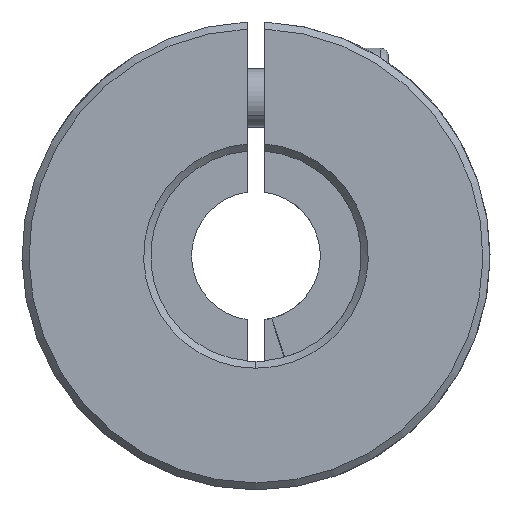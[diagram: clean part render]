
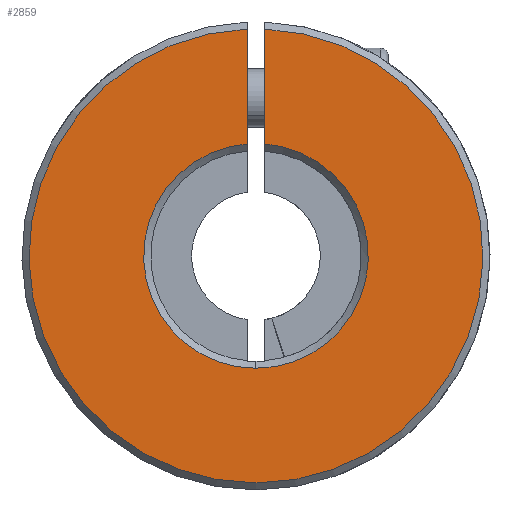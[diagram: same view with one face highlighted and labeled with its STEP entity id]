
A CAD part, front view. The second image highlights one B-rep face of the part: STEP entity #2859.
In plain terms, the highlighted planar face has unit normal (0, -1, 0).
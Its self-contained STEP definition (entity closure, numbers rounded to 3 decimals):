
#314 = AXIS2_PLACEMENT_3D ( 'NONE', #4131, #5082, #2740 ) ;
#428 = EDGE_CURVE ( 'NONE', #3348, #569, #4663, .T. ) ;
#520 = LINE ( 'NONE', #5727, #3197 ) ;
#569 = VERTEX_POINT ( 'NONE', #1157 ) ;
#590 = CIRCLE ( 'NONE', #314, 9.6 ) ;
#794 = AXIS2_PLACEMENT_3D ( 'NONE', #1958, #4303, #3773 ) ;
#1157 = CARTESIAN_POINT ( 'NONE',  ( 0.75, -25., 19.385 ) ) ;
#1315 = CARTESIAN_POINT ( 'NONE',  ( 0., -25., 0. ) ) ;
#1346 = LINE ( 'NONE', #2864, #2726 ) ;
#1531 = CARTESIAN_POINT ( 'NONE',  ( -0.75, -25., 9.571 ) ) ;
#1826 = DIRECTION ( 'NONE',  ( 0., -1., 0. ) ) ;
#1958 = CARTESIAN_POINT ( 'NONE',  ( 0., -25., 0. ) ) ;
#2127 = ORIENTED_EDGE ( 'NONE', *, *, #2978, .T. ) ;
#2726 = VECTOR ( 'NONE', #3788, 1000. ) ;
#2740 = DIRECTION ( 'NONE',  ( 0., 0., 1. ) ) ;
#2765 = CARTESIAN_POINT ( 'NONE',  ( 0., -25., 0. ) ) ;
#2859 = ADVANCED_FACE ( 'NONE', ( #3647 ), #5496, .F. ) ;
#2864 = CARTESIAN_POINT ( 'NONE',  ( -0.75, -25., -9. ) ) ;
#2978 = EDGE_CURVE ( 'NONE', #569, #3592, #520, .T. ) ;
#3009 = CARTESIAN_POINT ( 'NONE',  ( 0.75, -25., 9.571 ) ) ;
#3070 = ORIENTED_EDGE ( 'NONE', *, *, #5058, .T. ) ;
#3197 = VECTOR ( 'NONE', #3387, 1000. ) ;
#3228 = CARTESIAN_POINT ( 'NONE',  ( -0.75, -25., 19.385 ) ) ;
#3263 = VERTEX_POINT ( 'NONE', #5516 ) ;
#3348 = VERTEX_POINT ( 'NONE', #3228 ) ;
#3387 = DIRECTION ( 'NONE',  ( 0., 0., -1. ) ) ;
#3412 = AXIS2_PLACEMENT_3D ( 'NONE', #2765, #4925, #4461 ) ;
#3427 = CIRCLE ( 'NONE', #794, 9.6 ) ;
#3489 = AXIS2_PLACEMENT_3D ( 'NONE', #1315, #1826, #5970 ) ;
#3592 = VERTEX_POINT ( 'NONE', #3009 ) ;
#3647 = FACE_OUTER_BOUND ( 'NONE', #5567, .T. ) ;
#3773 = DIRECTION ( 'NONE',  ( 0., 0., 1. ) ) ;
#3788 = DIRECTION ( 'NONE',  ( 0., 0., 1. ) ) ;
#4131 = CARTESIAN_POINT ( 'NONE',  ( 0., -25., 0. ) ) ;
#4153 = EDGE_CURVE ( 'NONE', #5440, #3348, #1346, .T. ) ;
#4303 = DIRECTION ( 'NONE',  ( 0., 1., 0. ) ) ;
#4461 = DIRECTION ( 'NONE',  ( 0., 0., 1. ) ) ;
#4611 = EDGE_CURVE ( 'NONE', #3592, #3263, #590, .T. ) ;
#4663 = CIRCLE ( 'NONE', #3489, 19.4 ) ;
#4752 = ORIENTED_EDGE ( 'NONE', *, *, #428, .T. ) ;
#4925 = DIRECTION ( 'NONE',  ( 0., 1., 0. ) ) ;
#5058 = EDGE_CURVE ( 'NONE', #3263, #5440, #3427, .T. ) ;
#5082 = DIRECTION ( 'NONE',  ( 0., 1., 0. ) ) ;
#5440 = VERTEX_POINT ( 'NONE', #1531 ) ;
#5496 = PLANE ( 'NONE',  #3412 ) ;
#5516 = CARTESIAN_POINT ( 'NONE',  ( 0., -25., -9.6 ) ) ;
#5559 = ORIENTED_EDGE ( 'NONE', *, *, #4153, .T. ) ;
#5567 = EDGE_LOOP ( 'NONE', ( #2127, #5920, #3070, #5559, #4752 ) ) ;
#5727 = CARTESIAN_POINT ( 'NONE',  ( 0.75, -25., -9. ) ) ;
#5920 = ORIENTED_EDGE ( 'NONE', *, *, #4611, .T. ) ;
#5970 = DIRECTION ( 'NONE',  ( 0., 0., 1. ) ) ;
